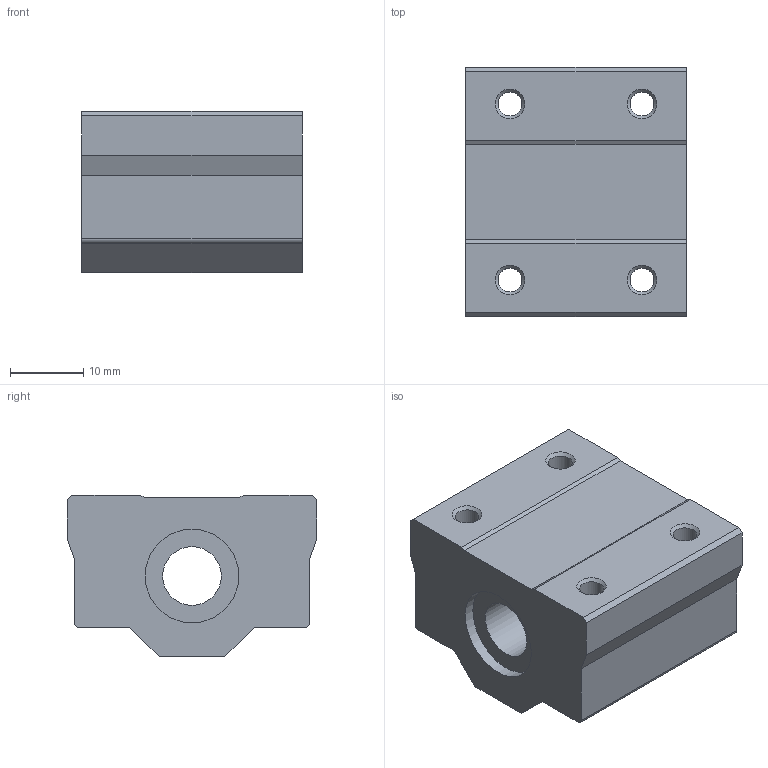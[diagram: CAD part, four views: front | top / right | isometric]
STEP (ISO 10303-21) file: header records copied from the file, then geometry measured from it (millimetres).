
FILE_DESCRIPTION( ( 'Unknown' ), '1' );
FILE_NAME( 'D:/累诀/己绕皋墨飘肺葱胶/11-04-06_档搁累己/01_府聪绢何教/SC/SC 8.stp', 'Unknown', ( 'Unknown' ), ( 'Unknown' ), 'PSStep 11.0', 'Unknown', ' ' );
FILE_SCHEMA( ( 'AUTOMOTIVE_DESIGN { 1 0 10303 214 1 1 1 1 }' ) );
Length unit declared in the file: millimetre
Products named in the file (1): 1
Bounding box: 30 x 34 x 22 mm (x, y, z)
Volume: 16803.3 mm3; surface area: 5771.5 mm2
Topology: 1 solids, 1 shells, 39 faces, 110 edges, 75 vertices
Faces by surface type: plane 22, cylinder 13, cone 4
Full cylindrical faces by diameter (mm): 3.242 x8, 8 x1, 12.76 x2
Entity records: 1426 total; most frequent: DIRECTION 188, CARTESIAN_POINT 184, ORIENTED_EDGE 164, EDGE_CURVE 82, AXIS2_PLACEMENT_3D 66, EDGE_LOOP 66, VERTEX_POINT 62, LINE 56
